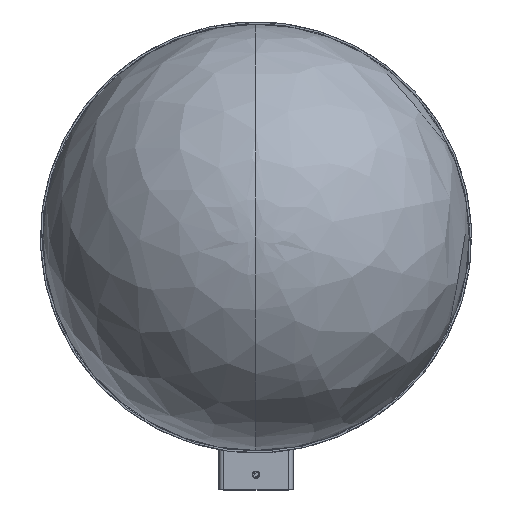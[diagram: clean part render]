
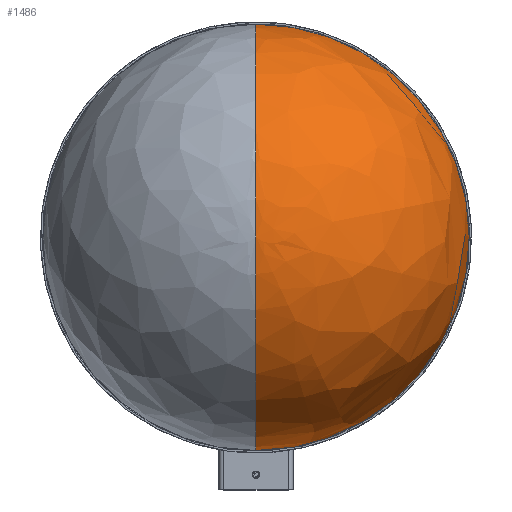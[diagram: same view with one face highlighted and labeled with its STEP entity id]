
A CAD part, top view. The second image highlights one B-rep face of the part: STEP entity #1486.
In plain terms, the highlighted free-form (B-spline) face has degree [2, 2] with [5, 9] control points.
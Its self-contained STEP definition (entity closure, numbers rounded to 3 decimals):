
#524=(
BOUNDED_SURFACE()
B_SPLINE_SURFACE(2,2,((#37663,#37664,#37665,#37666,#37667,#37668,#37669,
#37670,#37671),(#37672,#37673,#37674,#37675,#37676,#37677,#37678,#37679,
#37680),(#37681,#37682,#37683,#37684,#37685,#37686,#37687,#37688,#37689),
(#37690,#37691,#37692,#37693,#37694,#37695,#37696,#37697,#37698),(#37699,
#37700,#37701,#37702,#37703,#37704,#37705,#37706,#37707)),.UNSPECIFIED.,
 .F.,.F.,.F.)
B_SPLINE_SURFACE_WITH_KNOTS((3,2,3),(3,2,2,2,3),(0.,1.571,3.142),
(0.,0.884,1.767,2.651,3.534),
 .UNSPECIFIED.)
GEOMETRIC_REPRESENTATION_ITEM()
RATIONAL_B_SPLINE_SURFACE(((1.,0.904,1.,0.904,1.,
0.904,1.,0.904,1.),(0.707,0.639,
0.707,0.639,0.707,0.639,
0.707,0.639,0.707),(1.,0.904,
1.,0.904,1.,0.904,1.,0.904,1.),(0.707,
0.639,0.707,0.639,0.707,
0.639,0.707,0.639,0.707),
(1.,0.904,1.,0.904,1.,0.904,1.,0.904,
1.)))
REPRESENTATION_ITEM('')
SURFACE()
);
#1486=ADVANCED_FACE('',(#2317),#524,.T.);
#2317=FACE_OUTER_BOUND('',#3231,.T.);
#3231=EDGE_LOOP('',(#7130,#7131,#7132));
#7130=ORIENTED_EDGE('',*,*,#9145,.F.);
#7131=ORIENTED_EDGE('',*,*,#9146,.F.);
#7132=ORIENTED_EDGE('',*,*,#9144,.F.);
#9144=EDGE_CURVE('',#12868,#12870,#10960,.T.);
#9145=EDGE_CURVE('',#12869,#12868,#10961,.T.);
#9146=EDGE_CURVE('',#12870,#12869,#10962,.T.);
#10960=TRIMMED_CURVE($,#11633,(#37757),(#37758),.T.,.CARTESIAN.);
#10961=TRIMMED_CURVE($,#11634,(#37760),(#37761),.T.,.CARTESIAN.);
#10962=TRIMMED_CURVE($,#11635,(#37763),(#37764),.T.,.CARTESIAN.);
#11633=CIRCLE('',#14751,115.);
#11634=CIRCLE('',#14752,115.);
#11635=CIRCLE('',#14753,115.);
#12868=VERTEX_POINT('',#37753);
#12869=VERTEX_POINT('',#37754);
#12870=VERTEX_POINT('',#37755);
#14751=AXIS2_PLACEMENT_3D($,#37756,#16617,#16618);
#14752=AXIS2_PLACEMENT_3D($,#37759,#16619,#16620);
#14753=AXIS2_PLACEMENT_3D($,#37762,#16621,#16622);
#16617=DIRECTION('',(0.,0.,1.));
#16618=DIRECTION('',(0.,-1.,0.));
#16619=DIRECTION('',(1.,0.,0.));
#16620=DIRECTION('',(0.,0.,1.));
#16621=DIRECTION('',(1.,0.,0.));
#16622=DIRECTION('',(0.,1.,0.));
#37663=CARTESIAN_POINT('',(0.,136.25,21.));
#37664=CARTESIAN_POINT('',(0.,136.25,21.));
#37665=CARTESIAN_POINT('',(0.,136.25,21.));
#37666=CARTESIAN_POINT('',(0.,136.25,21.));
#37667=CARTESIAN_POINT('',(0.,136.25,21.));
#37668=CARTESIAN_POINT('',(0.,136.25,21.));
#37669=CARTESIAN_POINT('',(0.,136.25,21.));
#37670=CARTESIAN_POINT('',(0.,136.25,21.));
#37671=CARTESIAN_POINT('',(0.,136.25,21.));
#37672=CARTESIAN_POINT('',(0.,21.25,21.));
#37673=CARTESIAN_POINT('',(54.391,21.25,21.));
#37674=CARTESIAN_POINT('',(88.896,63.295,21.));
#37675=CARTESIAN_POINT('',(123.401,105.34,21.));
#37676=CARTESIAN_POINT('',(112.79,158.685,21.));
#37677=CARTESIAN_POINT('',(102.179,212.031,21.));
#37678=CARTESIAN_POINT('',(54.211,237.671,21.));
#37679=CARTESIAN_POINT('',(6.242,263.311,21.));
#37680=CARTESIAN_POINT('',(-44.009,242.496,21.));
#37681=CARTESIAN_POINT('',(0.,21.25,136.));
#37682=CARTESIAN_POINT('',(54.391,21.25,136.));
#37683=CARTESIAN_POINT('',(88.896,63.295,136.));
#37684=CARTESIAN_POINT('',(123.401,105.34,136.));
#37685=CARTESIAN_POINT('',(112.79,158.685,136.));
#37686=CARTESIAN_POINT('',(102.179,212.031,136.));
#37687=CARTESIAN_POINT('',(54.211,237.671,136.));
#37688=CARTESIAN_POINT('',(6.242,263.311,136.));
#37689=CARTESIAN_POINT('',(-44.009,242.496,136.));
#37690=CARTESIAN_POINT('',(0.,21.25,251.));
#37691=CARTESIAN_POINT('',(54.391,21.25,251.));
#37692=CARTESIAN_POINT('',(88.896,63.295,251.));
#37693=CARTESIAN_POINT('',(123.401,105.34,251.));
#37694=CARTESIAN_POINT('',(112.79,158.685,251.));
#37695=CARTESIAN_POINT('',(102.179,212.031,251.));
#37696=CARTESIAN_POINT('',(54.211,237.671,251.));
#37697=CARTESIAN_POINT('',(6.242,263.311,251.));
#37698=CARTESIAN_POINT('',(-44.009,242.496,251.));
#37699=CARTESIAN_POINT('',(0.,136.25,251.));
#37700=CARTESIAN_POINT('',(0.,136.25,251.));
#37701=CARTESIAN_POINT('',(0.,136.25,251.));
#37702=CARTESIAN_POINT('',(0.,136.25,251.));
#37703=CARTESIAN_POINT('',(0.,136.25,251.));
#37704=CARTESIAN_POINT('',(0.,136.25,251.));
#37705=CARTESIAN_POINT('',(0.,136.25,251.));
#37706=CARTESIAN_POINT('',(0.,136.25,251.));
#37707=CARTESIAN_POINT('',(0.,136.25,251.));
#37753=CARTESIAN_POINT('',(0.,21.25,136.));
#37754=CARTESIAN_POINT('',(0.,136.25,251.));
#37755=CARTESIAN_POINT('',(0.,251.25,136.));
#37756=CARTESIAN_POINT('',(0.,136.25,136.));
#37757=CARTESIAN_POINT('',(0.,21.25,136.));
#37758=CARTESIAN_POINT('',(0.,251.25,136.));
#37759=CARTESIAN_POINT('',(0.,136.25,136.));
#37760=CARTESIAN_POINT('',(0.,136.25,251.));
#37761=CARTESIAN_POINT('',(0.,21.25,136.));
#37762=CARTESIAN_POINT('',(0.,136.25,136.));
#37763=CARTESIAN_POINT('',(0.,251.25,136.));
#37764=CARTESIAN_POINT('',(0.,136.25,251.));
